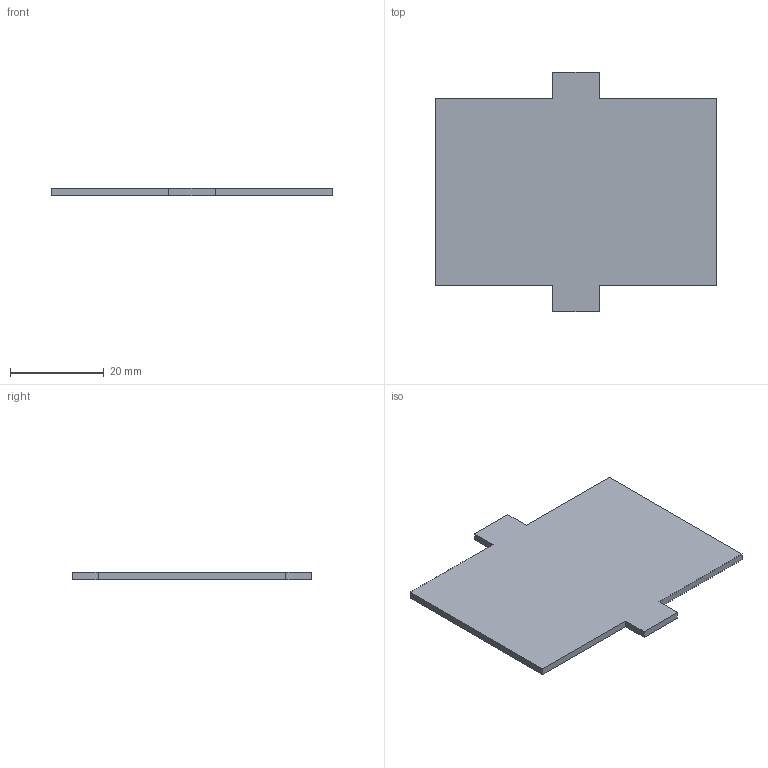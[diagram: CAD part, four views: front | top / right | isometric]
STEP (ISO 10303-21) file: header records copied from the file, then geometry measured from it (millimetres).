
FILE_DESCRIPTION(('Open CASCADE Model'),'2;1');
FILE_NAME('Open CASCADE Shape Model','2026-09-20T04:40:22',('Author'),( 'Open CASCADE'),'Open CASCADE STEP processor 8.0','Open CASCADE 8.0' ,'Unknown');
FILE_SCHEMA(('AP242_MANAGED_MODEL_BASED_3D_ENGINEERING_MIM_LF {1 0 10303 442 1 1 4 }' ));
Length unit declared in the file: millimetre
Products named in the file (1): Open CASCADE STEP translator 8.0 3
Bounding box: 60 x 51 x 1.5 mm (x, y, z)
Volume: 3765 mm3; surface area: 5353 mm2
Topology: 1 solids, 1 shells, 14 faces, 36 edges, 24 vertices
Faces by surface type: plane 14
Entity records: 898 total; most frequent: CARTESIAN_POINT 147, DIRECTION 138, LINE 108, VECTOR 108, ORIENTED_EDGE 72, PCURVE 72, DEFINITIONAL_REPRESENTATION 72, EDGE_CURVE 36
